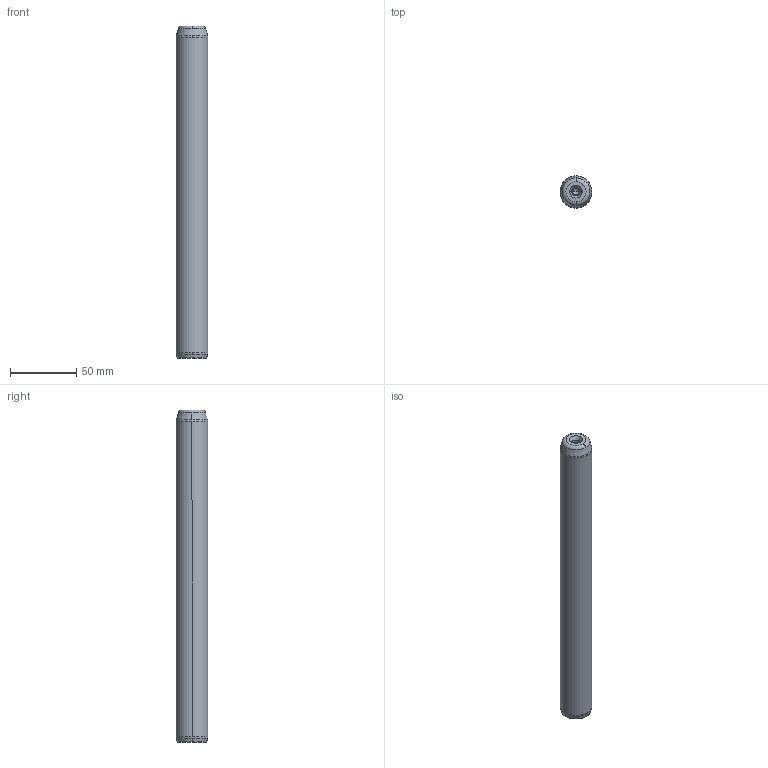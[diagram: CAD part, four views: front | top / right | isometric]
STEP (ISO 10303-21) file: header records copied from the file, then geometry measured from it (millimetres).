
FILE_DESCRIPTION((''),'2;1');
FILE_NAME('P10_024_250.stp','2008-12-23T14:36:33',(''),(''),'Mechanical Desktop 2009','Mechanical Desktop 2009',', , ');
FILE_SCHEMA(('CONFIG_CONTROL_DESIGN'));
Length unit declared in the file: millimetre
Products named in the file (5): Product; ProductAA; blmdl1; ProductA; blmdl1A
Assembly tree (2 placements, depth 3):
  Product
    ProductAA
      blmdl1
  ProductA
  blmdl1A
Bounding box: 24 x 24 x 250 mm (x, y, z)
Volume: 111764.1 mm3; surface area: 19786.4 mm2
Topology: 1 solids, 1 shells, 26 faces, 66 edges, 41 vertices
Faces by surface type: cone 10, torus 8, cylinder 6, plane 2
Entity records: 1012 total; most frequent: DIRECTION 170, CARTESIAN_POINT 134, ORIENTED_EDGE 128, AXIS2_PLACEMENT_3D 77, EDGE_CURVE 64, CIRCLE 48, VERTEX_POINT 41, EDGE_LOOP 27
